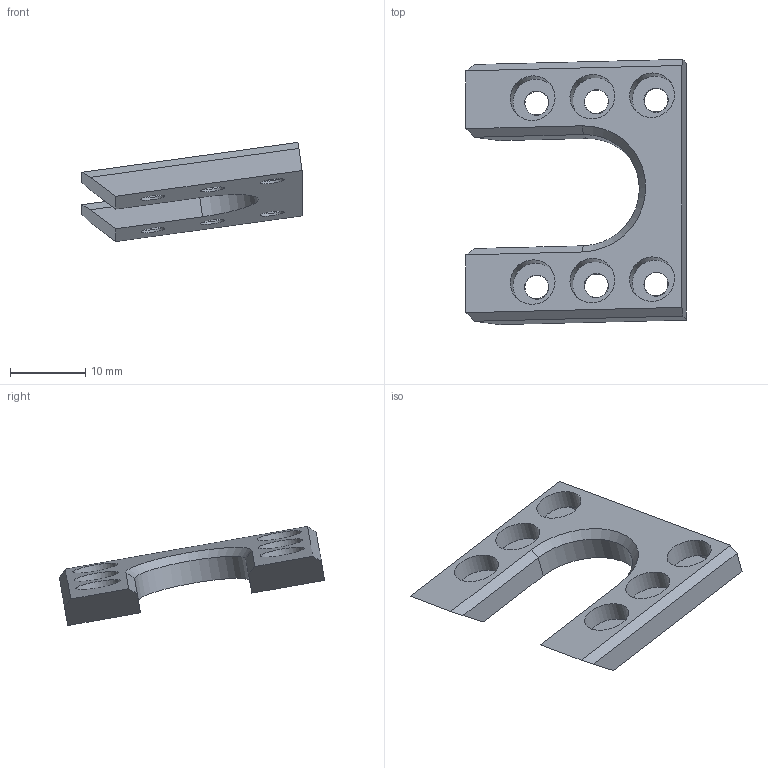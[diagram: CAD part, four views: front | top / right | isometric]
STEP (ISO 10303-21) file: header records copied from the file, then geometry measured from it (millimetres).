
FILE_DESCRIPTION(/* description */ (''),/* implementation_level */ '2;1');
FILE_NAME(/* name */ '4-10-2 Top wishbone cap.step',/* time_stamp */ '2025-05-10T22:17:20+02:00',/* author */ (''),/* organization */ (''),/* preprocessor_version */ 'ST-DEVELOPER v20.1',/* originating_system */ 'Autodesk Translation Framework v14.4.0.0',/* authorisation */ '');
FILE_SCHEMA (('AUTOMOTIVE_DESIGN { 1 0 10303 214 3 1 1 }'));
Length unit declared in the file: millimetre
Products named in the file (1): Top wishbone cap
Bounding box: 29.22 x 35.19 x 13.15 mm (x, y, z)
Volume: 1943.7 mm3; surface area: 2121.1 mm2
Topology: 1 solids, 1 shells, 33 faces, 79 edges, 48 vertices
Faces by surface type: plane 13, cylinder 13, cone 7
Full cylindrical faces by diameter (mm): 3.2 x6, 6 x6
Entity records: 1012 total; most frequent: DIRECTION 174, CARTESIAN_POINT 161, ORIENTED_EDGE 158, EDGE_CURVE 79, AXIS2_PLACEMENT_3D 61, LINE 52, VECTOR 52, VERTEX_POINT 48
